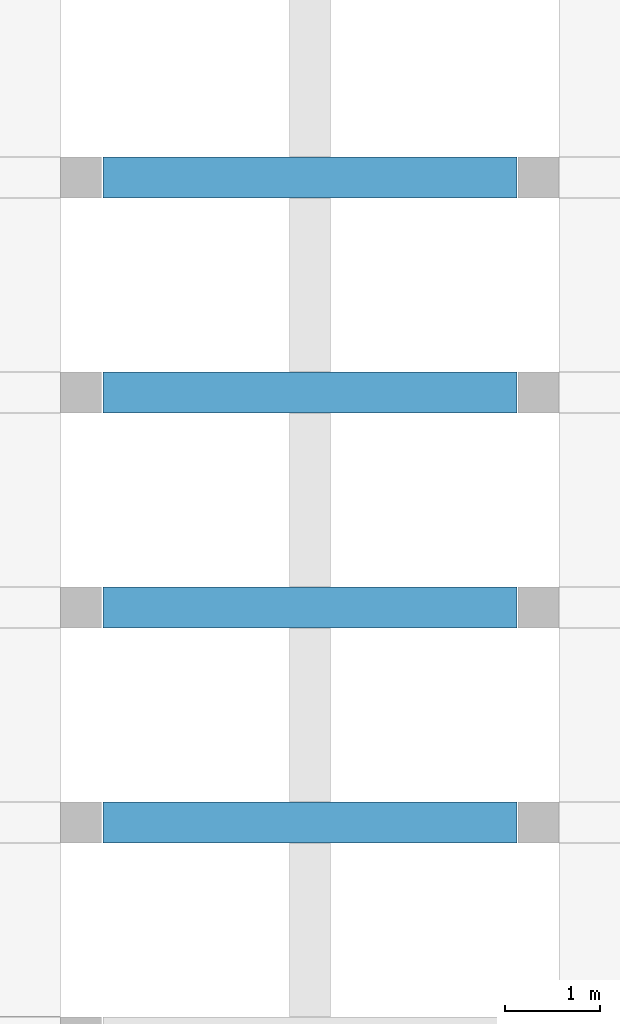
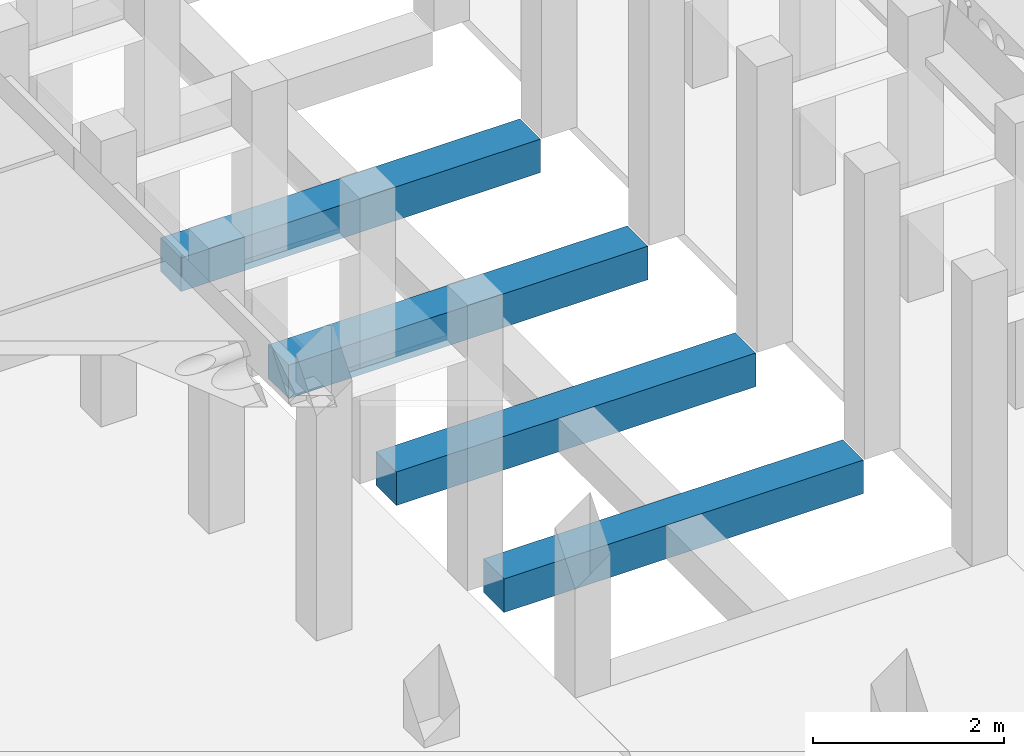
# One storey, part 8 of 18: 4 beams.
"""IFC2X3 building model written with IfcOpenShell, lengths in millimetres."""

from ifc_helpers import new_model, entity, si_unit, converted_unit, derived_unit, direction, frame, frame_2d, origin, place, context, subcontext, project, spatial, rectangle, extrude, material, type_object, element, save


model = new_model("IFC2X3")

# Units and contexts
model_context = context("Model", 3, precision=0.01, world=origin(), true_north=direction((6.12303176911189e-17, 1.0)))
body_context = subcontext(model_context, "Body", "Model", "MODEL_VIEW")
ifc_project = project(units=[si_unit("LENGTHUNIT", "METRE", prefix="MILLI"), si_unit("AREAUNIT", "SQUARE_METRE"), si_unit("VOLUMEUNIT", "CUBIC_METRE"), converted_unit("PLANEANGLEUNIT", "DEGREE", entity("IfcRatioMeasure", 0.0174532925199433), si_unit("PLANEANGLEUNIT", "RADIAN"), dimensions=[0, 0, 0, 0, 0, 0, 0]), si_unit("MASSUNIT", "GRAM", prefix="KILO"), derived_unit("MASSDENSITYUNIT", [(si_unit("MASSUNIT", "GRAM", prefix="KILO"), 1), (si_unit("LENGTHUNIT", "METRE"), -3)]), derived_unit("MOMENTOFINERTIAUNIT", [(si_unit("LENGTHUNIT", "METRE"), 4)]), si_unit("TIMEUNIT", "SECOND"), si_unit("FREQUENCYUNIT", "HERTZ"), si_unit("THERMODYNAMICTEMPERATUREUNIT", "DEGREE_CELSIUS"), derived_unit("THERMALTRANSMITTANCEUNIT", [(si_unit("MASSUNIT", "GRAM", prefix="KILO"), 1), (si_unit("THERMODYNAMICTEMPERATUREUNIT", "KELVIN"), -1), (si_unit("TIMEUNIT", "SECOND"), -3)]), derived_unit("VOLUMETRICFLOWRATEUNIT", [(si_unit("LENGTHUNIT", "METRE"), 3), (si_unit("TIMEUNIT", "SECOND"), -1)]), si_unit("ELECTRICCURRENTUNIT", "AMPERE"), si_unit("ELECTRICVOLTAGEUNIT", "VOLT"), si_unit("POWERUNIT", "WATT"), si_unit("FORCEUNIT", "NEWTON", prefix="KILO"), si_unit("ILLUMINANCEUNIT", "LUX"), si_unit("LUMINOUSFLUXUNIT", "LUMEN"), si_unit("LUMINOUSINTENSITYUNIT", "CANDELA"), derived_unit("USERDEFINED", [(si_unit("MASSUNIT", "GRAM", prefix="KILO"), -1), (si_unit("LENGTHUNIT", "METRE"), -2), (si_unit("TIMEUNIT", "SECOND"), 3), (si_unit("LUMINOUSFLUXUNIT", "LUMEN"), 1)]), derived_unit("LINEARVELOCITYUNIT", [(si_unit("LENGTHUNIT", "METRE"), 1), (si_unit("TIMEUNIT", "SECOND"), -1)]), si_unit("PRESSUREUNIT", "PASCAL"), derived_unit("USERDEFINED", [(si_unit("LENGTHUNIT", "METRE"), -2), (si_unit("MASSUNIT", "GRAM", prefix="KILO"), 1), (si_unit("TIMEUNIT", "SECOND"), -2)]), derived_unit("LINEARFORCEUNIT", [(si_unit("MASSUNIT", "GRAM", prefix="KILO"), 1), (si_unit("LENGTHUNIT", "METRE"), 1), (si_unit("TIMEUNIT", "SECOND"), -2), (si_unit("LENGTHUNIT", "METRE"), -1)]), derived_unit("PLANARFORCEUNIT", [(si_unit("MASSUNIT", "GRAM", prefix="KILO"), 1), (si_unit("LENGTHUNIT", "METRE"), 1), (si_unit("TIMEUNIT", "SECOND"), -2), (si_unit("LENGTHUNIT", "METRE"), -2)])], contexts=[model_context])

# Site, building, storey
site_placement = place(None, frame((10627.5135316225, 21939.0796949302, 0.0)))
site = spatial("IfcSite", under=ifc_project, at=site_placement, Name="Default", CompositionType="ELEMENT")
building_placement = place(site_placement, origin())
building = spatial("IfcBuilding", under=site, at=building_placement, CompositionType="ELEMENT")
storey_placement = place(building_placement, frame((0.0, 0.0, 3660.0)))
storey = spatial("IfcBuildingStorey", under=building, at=storey_placement, Name="R+1", CompositionType="ELEMENT", Elevation=3660.0)

# Beams
ifc_material = material(Name="Concrete, Precast Smooth, Light Grey")
beam_type = type_object("IfcBeamType", Name="M_Concrete-Rectangular Beam:400 x 800mm", PredefinedType="NOTDEFINED")
beam_1_placement = place(storey_placement, frame((24172.4864683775, -6119.07969493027, 0.0)))
element("IfcBeam", 1, at=beam_1_placement, inside=storey, type_object=beam_type, material=ifc_material, Name="M_Concrete-Rectangular Beam:400 x 800mm", ObjectType="M_Concrete-Rectangular Beam:400 x 800mm", context=body_context, shape_type="SweptSolid", body=[
    extrude(rectangle(XDim=430.0, YDim=430.000000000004, at=frame_2d((0.0, 1.30029320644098e-11), x_axis=(1.0, 0.0))), frame((227.700000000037, 0.0, -215.0), z_axis=(1.0, 0.0, 0.0), x_axis=(0.0, 0.0, -1.0)), (0.0, 0.0, 1.0), 4354.59999999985),
])
beam_2_placement = place(storey_placement, frame((24172.4864683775, -8379.07969493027, 0.0)))
element("IfcBeam", 2, at=beam_2_placement, inside=storey, type_object=beam_type, material=ifc_material, Name="M_Concrete-Rectangular Beam:400 x 800mm", ObjectType="M_Concrete-Rectangular Beam:400 x 800mm", context=body_context, shape_type="SweptSolid", body=[
    extrude(rectangle(XDim=430.0, YDim=430.000000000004, at=frame_2d((0.0, 1.40829570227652e-11), x_axis=(1.0, 0.0))), frame((227.700000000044, 0.0, -215.0), z_axis=(1.0, 0.0, 0.0), x_axis=(0.0, 0.0, -1.0)), (0.0, 0.0, 1.0), 4354.59999999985),
])
beam_3_placement = place(storey_placement, frame((24172.4864683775, -10639.0796949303, 0.0)))
element("IfcBeam", 3, at=beam_3_placement, inside=storey, type_object=beam_type, material=ifc_material, Name="M_Concrete-Rectangular Beam:400 x 800mm", ObjectType="M_Concrete-Rectangular Beam:400 x 800mm", context=body_context, shape_type="SweptSolid", body=[
    extrude(rectangle(XDim=430.0, YDim=430.000000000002, at=frame_2d((0.0, 1.51629819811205e-11), x_axis=(1.0, 0.0))), frame((227.700000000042, 0.0, -215.0), z_axis=(1.0, 0.0, 0.0), x_axis=(0.0, 0.0, -1.0)), (0.0, 0.0, 1.0), 4354.59999999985),
])
beam_4_placement = place(storey_placement, frame((24172.4864683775, -12899.0796949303, 0.0)))
element("IfcBeam", 4, at=beam_4_placement, inside=storey, type_object=beam_type, material=ifc_material, Name="M_Concrete-Rectangular Beam:400 x 800mm", ObjectType="M_Concrete-Rectangular Beam:400 x 800mm", context=body_context, shape_type="SweptSolid", body=[
    extrude(rectangle(XDim=430.0, YDim=430.000000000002, at=frame_2d((0.0, 1.51629819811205e-11), x_axis=(1.0, 0.0))), frame((227.700000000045, 0.0, -215.0), z_axis=(1.0, 0.0, 0.0), x_axis=(0.0, 0.0, -1.0)), (0.0, 0.0, 1.0), 4354.59999999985),
])

save(model, "model.ifc")
